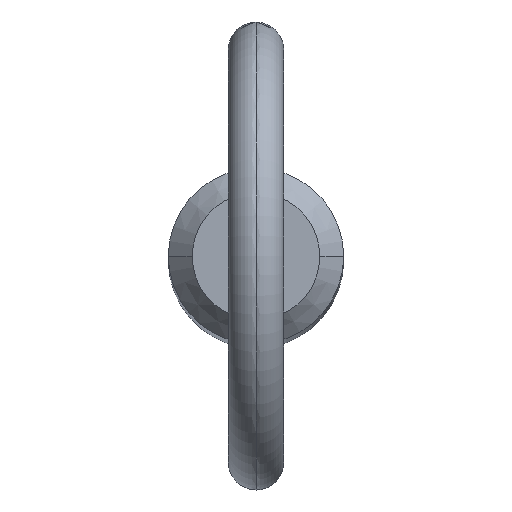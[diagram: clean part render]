
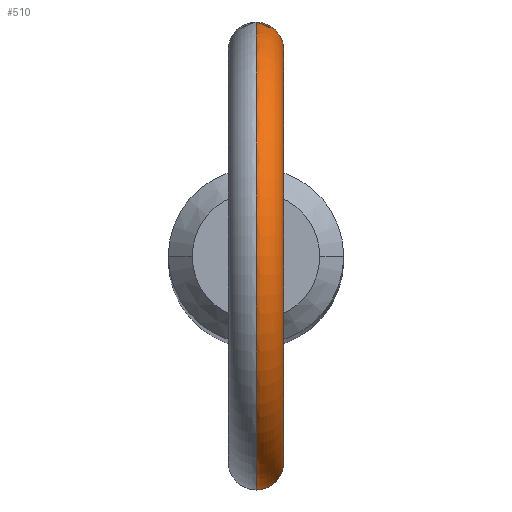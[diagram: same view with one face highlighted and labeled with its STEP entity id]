
A CAD part, top view. The second image highlights one B-rep face of the part: STEP entity #510.
In plain terms, the highlighted toroidal (fillet/blend) face has major radius 11.2 mm and minor radius 1.5 mm.
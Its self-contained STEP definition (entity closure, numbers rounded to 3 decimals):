
#10 = CARTESIAN_POINT ( 'NONE',  ( 1.473, -4.526, 116.431 ) ) ;
#33 = CARTESIAN_POINT ( 'NONE',  ( 1.177, 4.613, 115.775 ) ) ;
#38 = CARTESIAN_POINT ( 'NONE',  ( 0.511, 4.733, 115.308 ) ) ;
#52 = CARTESIAN_POINT ( 'NONE',  ( 0.687, -4.711, 118.335 ) ) ;
#53 = CARTESIAN_POINT ( 'NONE',  ( 1.24, -4.596, 115.86 ) ) ;
#55 = CARTESIAN_POINT ( 'NONE',  ( 0.797, -4.697, 115.429 ) ) ;
#74 = CARTESIAN_POINT ( 'NONE',  ( 1.239, 4.596, 115.859 ) ) ;
#77 = CARTESIAN_POINT ( 'NONE',  ( 1.343, 4.567, 116.037 ) ) ;
#89 = CARTESIAN_POINT ( 'NONE',  ( 1.45, -4.534, 116.328 ) ) ;
#90 = CARTESIAN_POINT ( 'NONE',  ( 0.506, -4.734, 118.437 ) ) ;
#93 = CARTESIAN_POINT ( 'NONE',  ( 0.512, -4.733, 115.308 ) ) ;
#94 = CARTESIAN_POINT ( 'NONE',  ( 0.997, -4.655, 118.064 ) ) ;
#105 = CARTESIAN_POINT ( 'NONE',  ( 0., -4.76, 115.226 ) ) ;
#111 = EDGE_CURVE ( 'NONE', #325, #156, #304, .T. ) ;
#114 = CARTESIAN_POINT ( 'NONE',  ( 0., 4.76, 115.226 ) ) ;
#117 = CARTESIAN_POINT ( 'NONE',  ( 0.925, 4.67, 118.14 ) ) ;
#128 = CARTESIAN_POINT ( 'NONE',  ( 0., -4.76, 118.548 ) ) ;
#135 = CARTESIAN_POINT ( 'NONE',  ( 1.503, -4.517, 116.74 ) ) ;
#156 = VERTEX_POINT ( 'NONE', #105 ) ;
#173 = EDGE_CURVE ( 'NONE', #231, #478, #184, .T. ) ;
#175 = CIRCLE ( 'NONE', #367, 9.7 ) ;
#179 = DIRECTION ( 'NONE',  ( 0., 0., -1. ) ) ;
#184 = B_SPLINE_CURVE_WITH_KNOTS ( 'NONE', 3,
 ( #114, #356, #239, #515, #38, #522, #480, #33, #74, #77, #442, #233, #312, #283, #404, #278, #198, #440, #117, #437, #399, #516, #482, #353 ),
 .UNSPECIFIED., .F., .F.,
 ( 4, 2, 2, 2, 2, 2, 2, 2, 2, 2, 2, 4 ),
 ( 0.001, 0.001, 0.001, 0.002, 0.002, 0.002, 0.003, 0.004, 0.004, 0.005, 0.005, 0.006 ),
 .UNSPECIFIED. ) ;
#198 = CARTESIAN_POINT ( 'NONE',  ( 1.188, 4.611, 117.827 ) ) ;
#211 = CARTESIAN_POINT ( 'NONE',  ( 1.293, -4.582, 117.642 ) ) ;
#213 = CARTESIAN_POINT ( 'NONE',  ( 1.385, -4.554, 116.132 ) ) ;
#222 = CARTESIAN_POINT ( 'NONE',  ( 0., 0., 127. ) ) ;
#231 = VERTEX_POINT ( 'NONE', #397 ) ;
#233 = CARTESIAN_POINT ( 'NONE',  ( 1.484, 4.523, 116.428 ) ) ;
#239 = CARTESIAN_POINT ( 'NONE',  ( 0.207, 4.757, 115.236 ) ) ;
#250 = CARTESIAN_POINT ( 'NONE',  ( 0., -4.76, 115.226 ) ) ;
#251 = CARTESIAN_POINT ( 'NONE',  ( 1.178, -4.613, 115.776 ) ) ;
#252 = AXIS2_PLACEMENT_3D ( 'NONE', #426, #338, #417 ) ;
#272 = FACE_OUTER_BOUND ( 'NONE', #407, .T. ) ;
#278 = CARTESIAN_POINT ( 'NONE',  ( 1.292, 4.582, 117.644 ) ) ;
#283 = CARTESIAN_POINT ( 'NONE',  ( 1.487, 4.522, 117.053 ) ) ;
#290 = CARTESIAN_POINT ( 'NONE',  ( 1.434, -4.539, 117.254 ) ) ;
#296 = CARTESIAN_POINT ( 'NONE',  ( 1.492, -4.52, 116.948 ) ) ;
#297 = CARTESIAN_POINT ( 'NONE',  ( 1.478, -4.525, 117.052 ) ) ;
#303 = ORIENTED_EDGE ( 'NONE', *, *, #411, .F. ) ;
#304 = B_SPLINE_CURVE_WITH_KNOTS ( 'NONE', 3,
 ( #128, #330, #359, #444, #90, #52, #376, #378, #94, #331, #211, #496, #290, #297, #296, #135, #380, #10, #89, #213, #494, #53, #251, #334, #55, #93, #460, #337, #375, #250 ),
 .UNSPECIFIED., .F., .F.,
 ( 4, 2, 2, 2, 2, 2, 2, 2, 2, 2, 2, 2, 2, 2, 4 ),
 ( 0.004, 0.005, 0.005, 0.005, 0.006, 0.006, 0.007, 0.007, 0.007, 0.007, 0.008, 0.008, 0.009, 0.009, 0.009 ),
 .UNSPECIFIED. ) ;
#305 = DIRECTION ( 'NONE',  ( 1., 0., 0. ) ) ;
#312 = CARTESIAN_POINT ( 'NONE',  ( 1.508, 4.515, 116.637 ) ) ;
#325 = VERTEX_POINT ( 'NONE', #327 ) ;
#327 = CARTESIAN_POINT ( 'NONE',  ( 0., -4.76, 118.548 ) ) ;
#330 = CARTESIAN_POINT ( 'NONE',  ( 0.104, -4.76, 118.548 ) ) ;
#331 = CARTESIAN_POINT ( 'NONE',  ( 1.19, -4.611, 117.824 ) ) ;
#332 = ORIENTED_EDGE ( 'NONE', *, *, #467, .T. ) ;
#333 = CARTESIAN_POINT ( 'NONE',  ( 0., 0., 127. ) ) ;
#334 = CARTESIAN_POINT ( 'NONE',  ( 0.97, -4.662, 115.55 ) ) ;
#337 = CARTESIAN_POINT ( 'NONE',  ( 0.208, -4.757, 115.236 ) ) ;
#338 = DIRECTION ( 'NONE',  ( 1., 0., 0. ) ) ;
#353 = CARTESIAN_POINT ( 'NONE',  ( 0., 4.76, 118.548 ) ) ;
#356 = CARTESIAN_POINT ( 'NONE',  ( 0.104, 4.76, 115.226 ) ) ;
#359 = CARTESIAN_POINT ( 'NONE',  ( 0.209, -4.756, 118.534 ) ) ;
#367 = AXIS2_PLACEMENT_3D ( 'NONE', #333, #463, #179 ) ;
#375 = CARTESIAN_POINT ( 'NONE',  ( 0.105, -4.76, 115.226 ) ) ;
#376 = CARTESIAN_POINT ( 'NONE',  ( 0.77, -4.698, 118.275 ) ) ;
#378 = CARTESIAN_POINT ( 'NONE',  ( 0.925, -4.67, 118.139 ) ) ;
#380 = CARTESIAN_POINT ( 'NONE',  ( 1.499, -4.518, 116.637 ) ) ;
#396 = ORIENTED_EDGE ( 'NONE', *, *, #111, .F. ) ;
#397 = CARTESIAN_POINT ( 'NONE',  ( 0., 4.76, 115.226 ) ) ;
#399 = CARTESIAN_POINT ( 'NONE',  ( 0.685, 4.711, 118.336 ) ) ;
#404 = CARTESIAN_POINT ( 'NONE',  ( 1.441, 4.537, 117.259 ) ) ;
#406 = TOROIDAL_SURFACE ( 'NONE', #474, 11.2, 1.5 ) ;
#407 = EDGE_LOOP ( 'NONE', ( #471, #332, #396, #303 ) ) ;
#411 = EDGE_CURVE ( 'NONE', #478, #325, #175, .T. ) ;
#417 = DIRECTION ( 'NONE',  ( 0., 0., -1. ) ) ;
#421 = CARTESIAN_POINT ( 'NONE',  ( 0., 4.76, 118.548 ) ) ;
#426 = CARTESIAN_POINT ( 'NONE',  ( 0., 0., 127. ) ) ;
#427 = DIRECTION ( 'NONE',  ( 0., 0., -1. ) ) ;
#437 = CARTESIAN_POINT ( 'NONE',  ( 0.771, 4.698, 118.275 ) ) ;
#440 = CARTESIAN_POINT ( 'NONE',  ( 0.996, 4.655, 118.066 ) ) ;
#442 = CARTESIAN_POINT ( 'NONE',  ( 1.385, 4.554, 116.13 ) ) ;
#444 = CARTESIAN_POINT ( 'NONE',  ( 0.409, -4.743, 118.478 ) ) ;
#458 = CIRCLE ( 'NONE', #252, 12.7 ) ;
#460 = CARTESIAN_POINT ( 'NONE',  ( 0.411, -4.743, 115.277 ) ) ;
#463 = DIRECTION ( 'NONE',  ( 1., 0., 0. ) ) ;
#467 = EDGE_CURVE ( 'NONE', #231, #156, #458, .T. ) ;
#471 = ORIENTED_EDGE ( 'NONE', *, *, #173, .F. ) ;
#474 = AXIS2_PLACEMENT_3D ( 'NONE', #222, #305, #427 ) ;
#478 = VERTEX_POINT ( 'NONE', #421 ) ;
#480 = CARTESIAN_POINT ( 'NONE',  ( 0.968, 4.663, 115.549 ) ) ;
#482 = CARTESIAN_POINT ( 'NONE',  ( 0.208, 4.76, 118.548 ) ) ;
#494 = CARTESIAN_POINT ( 'NONE',  ( 1.344, -4.567, 116.039 ) ) ;
#496 = CARTESIAN_POINT ( 'NONE',  ( 1.404, -4.548, 117.353 ) ) ;
#510 = ADVANCED_FACE ( 'NONE', ( #272 ), #406, .T. ) ;
#515 = CARTESIAN_POINT ( 'NONE',  ( 0.411, 4.743, 115.277 ) ) ;
#516 = CARTESIAN_POINT ( 'NONE',  ( 0.415, 4.745, 118.488 ) ) ;
#522 = CARTESIAN_POINT ( 'NONE',  ( 0.795, 4.697, 115.428 ) ) ;
